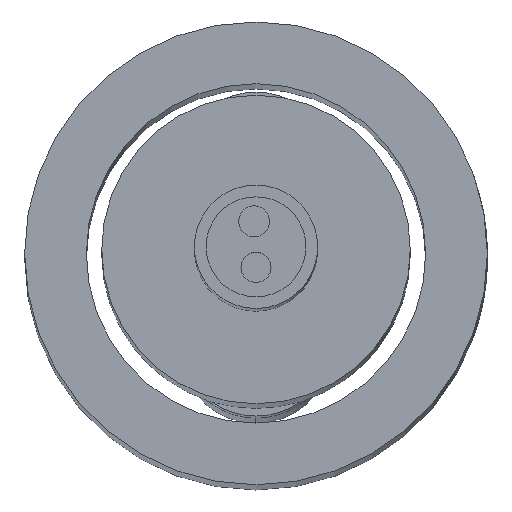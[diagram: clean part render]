
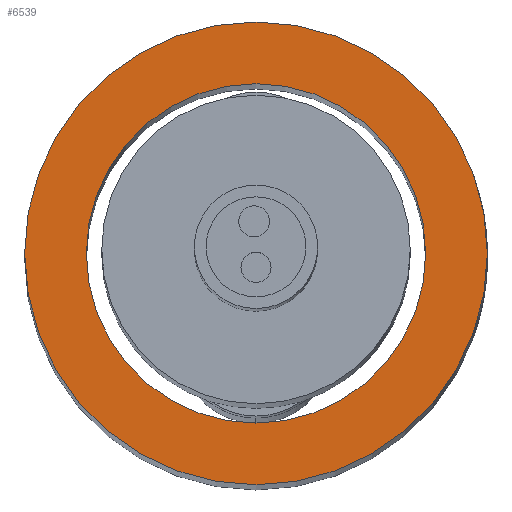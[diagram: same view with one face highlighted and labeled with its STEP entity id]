
A CAD part, top view. The second image highlights one B-rep face of the part: STEP entity #6539.
In plain terms, the highlighted planar face has unit normal (0, 0, 1).
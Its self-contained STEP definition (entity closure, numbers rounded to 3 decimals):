
#26 = CARTESIAN_POINT ( 'NONE',  ( 0., 0., 2.5 ) ) ;
#138 = EDGE_CURVE ( 'NONE', #5544, #8838, #6065, .T. ) ;
#770 = EDGE_CURVE ( 'NONE', #8838, #5544, #5226, .T. ) ;
#993 = CARTESIAN_POINT ( 'NONE',  ( 0., 0., 2.5 ) ) ;
#1038 = ORIENTED_EDGE ( 'NONE', *, *, #138, .T. ) ;
#1060 = CARTESIAN_POINT ( 'NONE',  ( -1.1, 0., 2.5 ) ) ;
#1090 = DIRECTION ( 'NONE',  ( 0., 0., 1. ) ) ;
#2269 = DIRECTION ( 'NONE',  ( 0., 0., 1. ) ) ;
#2857 = DIRECTION ( 'NONE',  ( 1., 0., 0. ) ) ;
#3025 = EDGE_LOOP ( 'NONE', ( #3993, #7659 ) ) ;
#3048 = CARTESIAN_POINT ( 'NONE',  ( 1.1, 0., 2.5 ) ) ;
#3148 = CARTESIAN_POINT ( 'NONE',  ( 0., 0., 2.5 ) ) ;
#3209 = DIRECTION ( 'NONE',  ( 0., 0., 1. ) ) ;
#3217 = AXIS2_PLACEMENT_3D ( 'NONE', #993, #1090, #4468 ) ;
#3266 = DIRECTION ( 'NONE',  ( 1., 0., 0. ) ) ;
#3538 = CIRCLE ( 'NONE', #7802, 1.1 ) ;
#3932 = CARTESIAN_POINT ( 'NONE',  ( 1.5, 0., 2.5 ) ) ;
#3982 = CIRCLE ( 'NONE', #6531, 1.1 ) ;
#3993 = ORIENTED_EDGE ( 'NONE', *, *, #5993, .F. ) ;
#4290 = FACE_OUTER_BOUND ( 'NONE', #8414, .T. ) ;
#4423 = DIRECTION ( 'NONE',  ( 1., 0., 0. ) ) ;
#4468 = DIRECTION ( 'NONE',  ( 1., 0., 0. ) ) ;
#4790 = DIRECTION ( 'NONE',  ( 0., 0., 1. ) ) ;
#4793 = AXIS2_PLACEMENT_3D ( 'NONE', #3048, #2269, #4423 ) ;
#5226 = CIRCLE ( 'NONE', #7156, 1.5 ) ;
#5472 = DIRECTION ( 'NONE',  ( 1., 0., 0. ) ) ;
#5544 = VERTEX_POINT ( 'NONE', #7862 ) ;
#5857 = VERTEX_POINT ( 'NONE', #1060 ) ;
#5907 = FACE_BOUND ( 'NONE', #3025, .T. ) ;
#5993 = EDGE_CURVE ( 'NONE', #6146, #5857, #3982, .T. ) ;
#6065 = CIRCLE ( 'NONE', #3217, 1.5 ) ;
#6146 = VERTEX_POINT ( 'NONE', #8051 ) ;
#6173 = DIRECTION ( 'NONE',  ( 0., 0., 1. ) ) ;
#6531 = AXIS2_PLACEMENT_3D ( 'NONE', #3148, #3209, #3266 ) ;
#6539 = ADVANCED_FACE ( 'NONE', ( #4290, #5907 ), #7094, .T. ) ;
#6938 = CARTESIAN_POINT ( 'NONE',  ( 0., 0., 2.5 ) ) ;
#7094 = PLANE ( 'NONE',  #4793 ) ;
#7156 = AXIS2_PLACEMENT_3D ( 'NONE', #6938, #6173, #2857 ) ;
#7435 = EDGE_CURVE ( 'NONE', #5857, #6146, #3538, .T. ) ;
#7540 = ORIENTED_EDGE ( 'NONE', *, *, #770, .T. ) ;
#7659 = ORIENTED_EDGE ( 'NONE', *, *, #7435, .F. ) ;
#7802 = AXIS2_PLACEMENT_3D ( 'NONE', #26, #4790, #5472 ) ;
#7862 = CARTESIAN_POINT ( 'NONE',  ( -1.5, 0., 2.5 ) ) ;
#8051 = CARTESIAN_POINT ( 'NONE',  ( 1.1, 0., 2.5 ) ) ;
#8414 = EDGE_LOOP ( 'NONE', ( #7540, #1038 ) ) ;
#8838 = VERTEX_POINT ( 'NONE', #3932 ) ;
